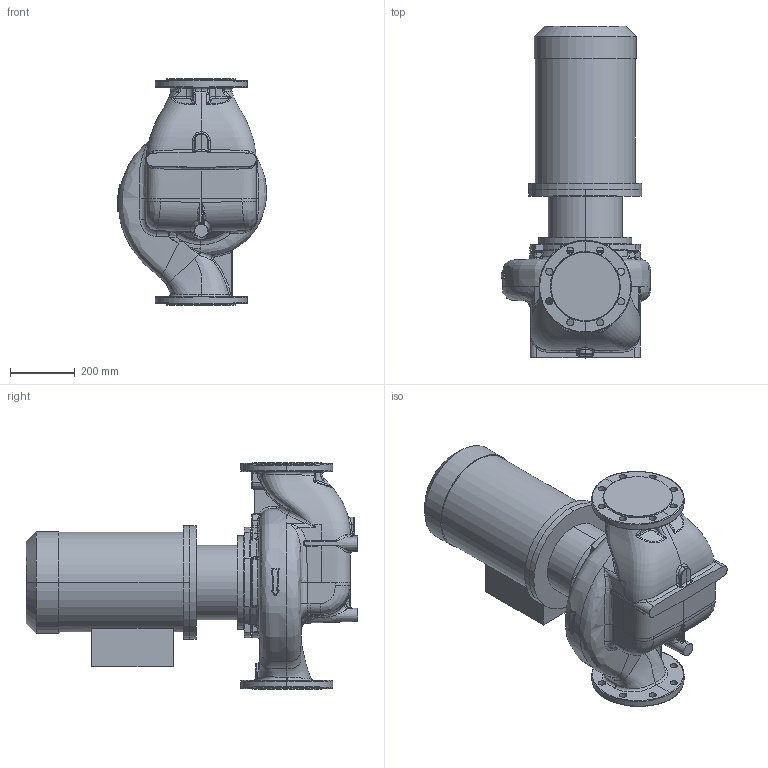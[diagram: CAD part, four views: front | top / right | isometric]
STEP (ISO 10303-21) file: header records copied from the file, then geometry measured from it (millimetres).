
FILE_DESCRIPTION (( 'STEP AP214' ), '1' );
FILE_NAME ('KRL 150-250-4-11.STEP', '2026-04-02T13:38:18', ( '' ), ( '' ), 'SwSTEP 2.0', 'SolidWorks 2016', '' );
FILE_SCHEMA (( 'AUTOMOTIVE_DESIGN' ));
Length unit declared in the file: millimetre
Products named in the file (1): KRL 150-250-4-11
Bounding box: 460.33 x 1024.8 x 700 mm (x, y, z)
Volume: 102899482.3 mm3; surface area: 2485342 mm2
Topology: 9 solids, 9 shells, 707 faces, 1732 edges, 1026 vertices
Faces by surface type: bspline 385, cylinder 136, plane 128, cone 42, torus 9, sphere 7
Entity records: 80328 total; most frequent: CARTESIAN_POINT 59397, ORIENTED_EDGE 3392, DIRECTION 1779, EDGE_CURVE 1696, VERTEX_POINT 1026, B_SPLINE_CURVE_WITH_KNOTS 808, EDGE_LOOP 758, AXIS2_PLACEMENT_3D 748
